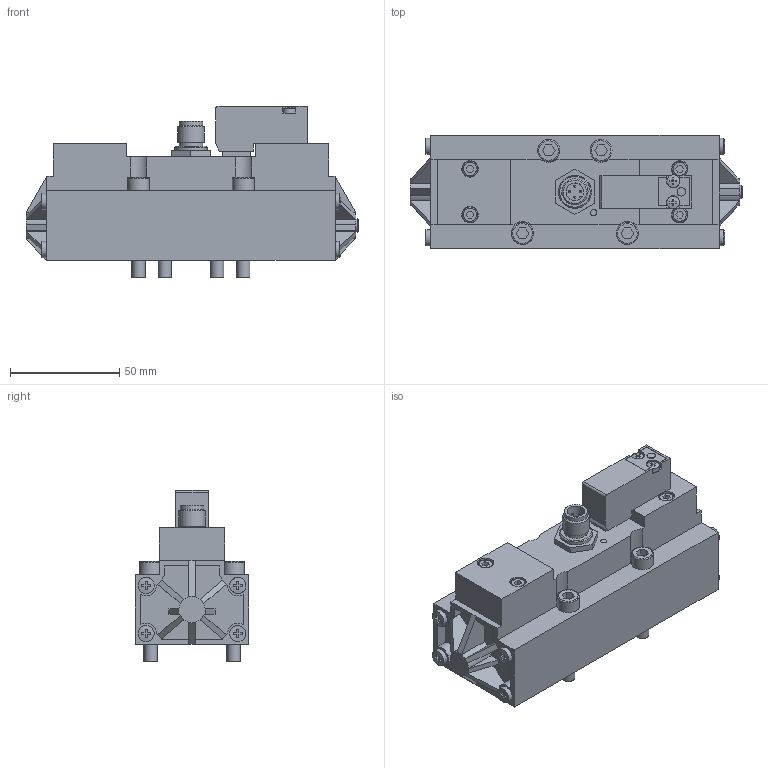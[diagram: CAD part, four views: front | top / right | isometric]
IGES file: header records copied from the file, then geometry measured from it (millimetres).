
Global section: file name: No Iges File Name specified; native system: Autodesk Inventor 2013; preprocessor: AutoDesk Inventor Iges Exporter R2013; author: valotma1; date: 20140318.135010; units: millimetre
Bounding box: 152 x 52 x 78.7 mm (x, y, z)
Volume: 302965.8 mm3; surface area: 45598.7 mm2
Topology: 3 solids, 3 shells, 475 faces, 1224 edges, 804 vertices
Faces by surface type: bspline 475
